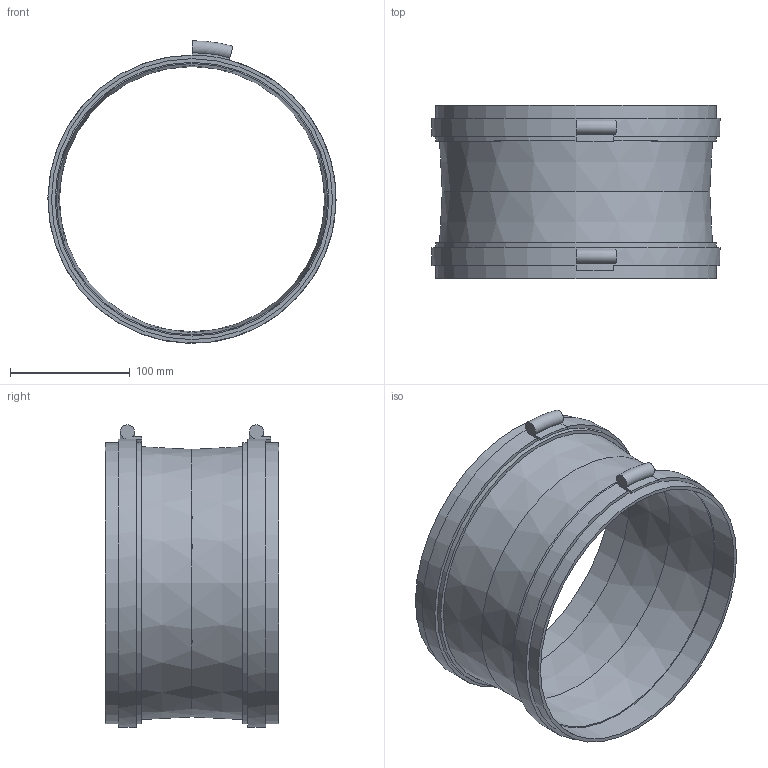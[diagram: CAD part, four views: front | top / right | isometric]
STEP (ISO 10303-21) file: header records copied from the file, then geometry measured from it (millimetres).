
FILE_DESCRIPTION(/* description */ (''),/* implementation_level */ '2;1');
FILE_NAME(/* name */ 'Z:\Output\FM_225-01671-001.stp',/* time_stamp */ '2017-07-11T10:21:08+02:00',/* author */ ('jayeshpanchal'),/* organization */ (''),/* preprocessor_version */ 'ST-DEVELOPER v16.5',/* originating_system */ 'Autodesk Inventor 2017',/* authorisation */ '');
FILE_SCHEMA (('AUTOMOTIVE_DESIGN { 1 0 10303 214 3 1 1 }'));
Length unit declared in the file: millimetre
Products named in the file (1): FM-1
Bounding box: 241 x 145 x 252.98 mm (x, y, z)
Volume: 278010.8 mm3; surface area: 252105.4 mm2
Topology: 3 solids, 3 shells, 36 faces, 66 edges, 40 vertices
Faces by surface type: plane 16, cylinder 14, cone 4, torus 2
Full cylindrical faces by diameter (mm): 229 x4, 235 x4, 241 x2
Entity records: 883 total; most frequent: DIRECTION 162, CARTESIAN_POINT 129, ORIENTED_EDGE 108, AXIS2_PLACEMENT_3D 73, EDGE_LOOP 60, EDGE_CURVE 52, VERTEX_POINT 40, FACE_OUTER_BOUND 36
